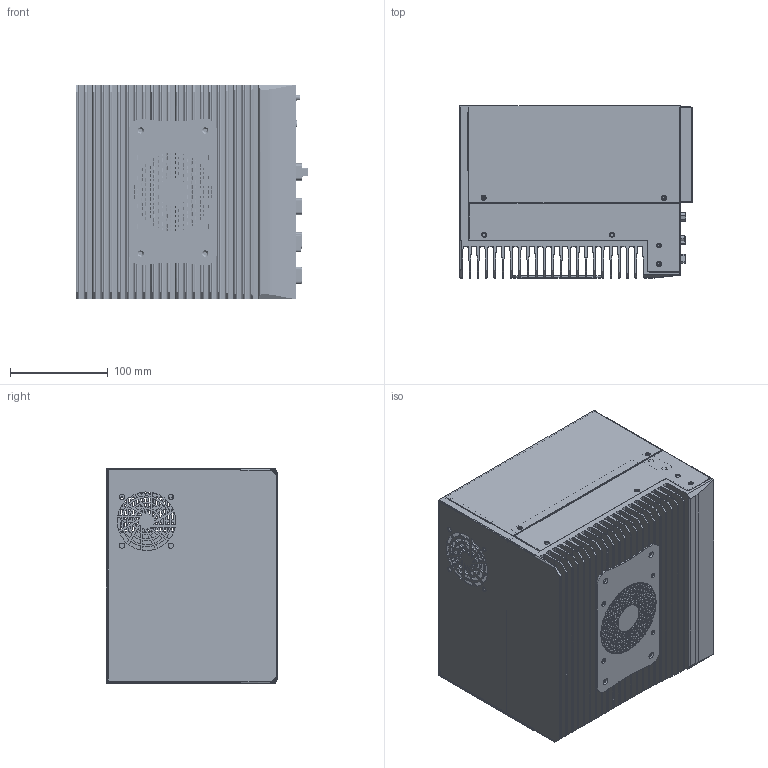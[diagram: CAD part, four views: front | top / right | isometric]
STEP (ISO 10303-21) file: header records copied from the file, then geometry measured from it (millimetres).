
FILE_DESCRIPTION((''),'2;1');
FILE_NAME('521_1_1','2025-06-26T10:21:43',('Administrator'),(''),'CREO PARAMETRIC BY PTC INC, 2022073','CREO PARAMETRIC BY PTC INC, 2022073','');
FILE_SCHEMA(('AUTOMOTIVE_DESIGN { 1 0 10303 214 1 1 1 1 }'));
Products named in the file (1): 521_1_1
Bounding box: 238 x 176 x 220 mm (x, y, z)
Volume: 1045398.6 mm3; surface area: 869321.7 mm2
Topology: 1 solids, 1 shells, 3938 faces, 10842 edges, 7105 vertices
Faces by surface type: plane 1849, cylinder 1846, sphere 114, torus 79, cone 46, bspline 2, extrusion 2
Entity records: 160917 total; most frequent: CARTESIAN_POINT 23042, DIRECTION 22741, ORIENTED_EDGE 21456, PRESENTATION_STYLE_ASSIGNMENT 10729, STYLED_ITEM 10729, CURVE_STYLE 10728, EDGE_CURVE 10728, AXIS2_PLACEMENT_3D 8316
